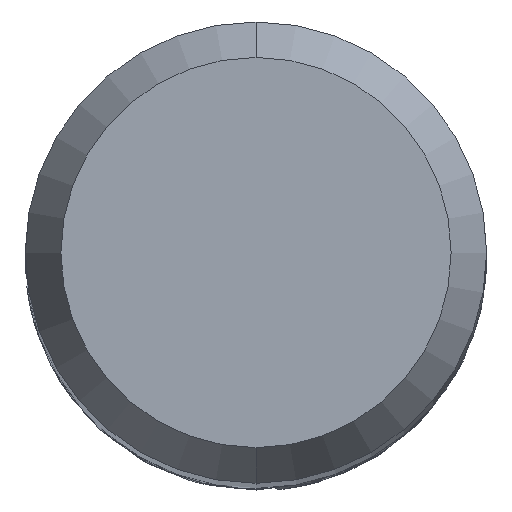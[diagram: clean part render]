
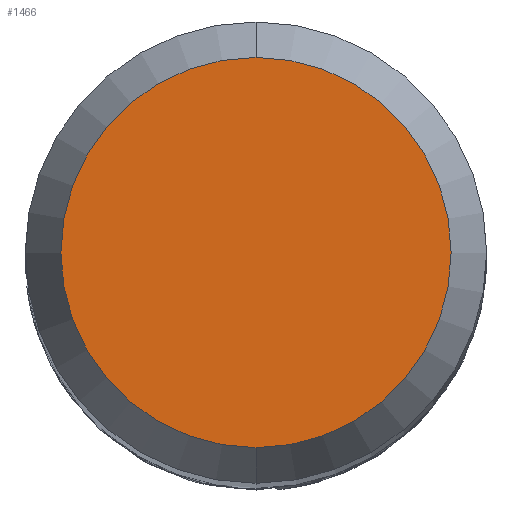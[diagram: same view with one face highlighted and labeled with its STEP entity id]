
A CAD part, top view. The second image highlights one B-rep face of the part: STEP entity #1466.
In plain terms, the highlighted planar face has unit normal (0, 0, 1).
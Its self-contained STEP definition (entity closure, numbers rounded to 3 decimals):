
#778=EDGE_CURVE('',#1796,#1750,#2234,.T.);
#978=EDGE_CURVE('',#1750,#1796,#2459,.T.);
#1466=ADVANCED_FACE('',(#2990),#2991,.T.);
#1750=VERTEX_POINT('',#3294);
#1796=VERTEX_POINT('',#3340);
#2234=CIRCLE('',#4154,2.538);
#2459=CIRCLE('',#6349,2.538);
#2990=FACE_OUTER_BOUND('',#10606,.T.);
#2991=PLANE('',#10607);
#3294=CARTESIAN_POINT('',(0.,-2.538,0.0));
#3340=CARTESIAN_POINT('',(0.0,2.538,0.0));
#4154=AXIS2_PLACEMENT_3D('',#17876,#17877,#17878);
#6349=AXIS2_PLACEMENT_3D('',#18153,#18154,#18155);
#10606=EDGE_LOOP('',(#18720,#18721));
#10607=AXIS2_PLACEMENT_3D('',#18722,#18723,#18724);
#17876=CARTESIAN_POINT('',(0.0,0.0,0.0));
#17877=DIRECTION('',(0.0,0.0,-1.0));
#17878=DIRECTION('',(0.0,1.0,0.0));
#18153=CARTESIAN_POINT('',(0.0,0.0,0.0));
#18154=DIRECTION('',(0.0,0.0,-1.0));
#18155=DIRECTION('',(0.0,1.0,0.0));
#18720=ORIENTED_EDGE('',*,*,#778,.F.);
#18721=ORIENTED_EDGE('',*,*,#978,.F.);
#18722=CARTESIAN_POINT('',(0.0,1.269,0.0));
#18723=DIRECTION('',(-0.0,0.0,1.0));
#18724=DIRECTION('',(0.0,-1.0,0.0));
